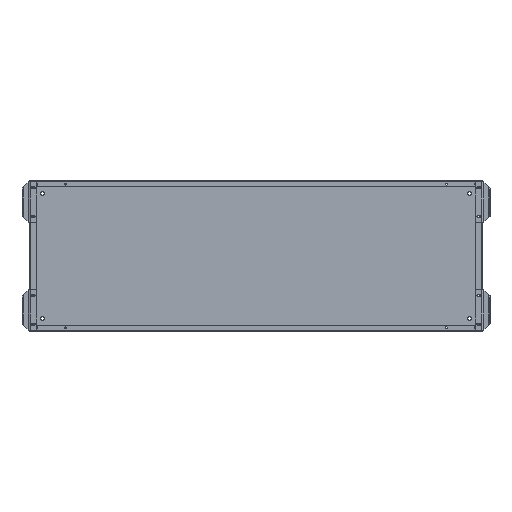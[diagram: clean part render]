
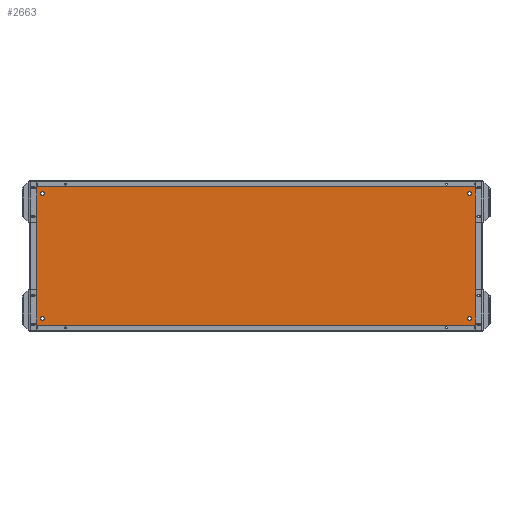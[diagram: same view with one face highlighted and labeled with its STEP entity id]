
A CAD part, top view. The second image highlights one B-rep face of the part: STEP entity #2663.
In plain terms, the highlighted planar face has unit normal (0, 0, 1).
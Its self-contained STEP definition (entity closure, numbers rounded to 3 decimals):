
#2663=ADVANCED_FACE('',(#5505,#5507,#5509,#5511,#5513,#5515,#5517,#5519,#5521,#5523,
#5525,#5527,#5529,#5531,#5533,#5535,#5537,#5539,#5541,#5543,#5545),#5547,.T.);
#5505=FACE_BOUND('',#5506,.T.);
#5506=EDGE_LOOP('',(#7126,#7127,#7128,#7129));
#5507=FACE_BOUND('',#5508,.T.);
#5508=EDGE_LOOP('',(#7130));
#5509=FACE_BOUND('',#5510,.T.);
#5510=EDGE_LOOP('',(#7131));
#5511=FACE_BOUND('',#5512,.T.);
#5512=EDGE_LOOP('',(#7132));
#5513=FACE_BOUND('',#5514,.T.);
#5514=EDGE_LOOP('',(#7133));
#5515=FACE_BOUND('',#5516,.T.);
#5516=EDGE_LOOP('',(#7134));
#5517=FACE_BOUND('',#5518,.T.);
#5518=EDGE_LOOP('',(#7135));
#5519=FACE_BOUND('',#5520,.T.);
#5520=EDGE_LOOP('',(#7136));
#5521=FACE_BOUND('',#5522,.T.);
#5522=EDGE_LOOP('',(#7137));
#5523=FACE_BOUND('',#5524,.T.);
#5524=EDGE_LOOP('',(#7138));
#5525=FACE_BOUND('',#5526,.T.);
#5526=EDGE_LOOP('',(#7139));
#5527=FACE_BOUND('',#5528,.T.);
#5528=EDGE_LOOP('',(#7140));
#5529=FACE_BOUND('',#5530,.T.);
#5530=EDGE_LOOP('',(#7141));
#5531=FACE_BOUND('',#5532,.T.);
#5532=EDGE_LOOP('',(#7142));
#5533=FACE_BOUND('',#5534,.T.);
#5534=EDGE_LOOP('',(#7143));
#5535=FACE_BOUND('',#5536,.T.);
#5536=EDGE_LOOP('',(#7144));
#5537=FACE_BOUND('',#5538,.T.);
#5538=EDGE_LOOP('',(#7145));
#5539=FACE_BOUND('',#5540,.T.);
#5540=EDGE_LOOP('',(#7146));
#5541=FACE_BOUND('',#5542,.T.);
#5542=EDGE_LOOP('',(#7147));
#5543=FACE_BOUND('',#5544,.T.);
#5544=EDGE_LOOP('',(#7148));
#5545=FACE_BOUND('',#5546,.T.);
#5546=EDGE_LOOP('',(#7149));
#5547=PLANE('',#5548);
#5548=AXIS2_PLACEMENT_3D('',#5549,#5550,#5551);
#5549=CARTESIAN_POINT('',(0.,0.,2.));
#5550=DIRECTION('',(0.,-0.,1.));
#5551=DIRECTION('',(1.,0.,-0.));
#7126=ORIENTED_EDGE('',*,*,#7994,.T.);
#7127=ORIENTED_EDGE('',*,*,#7983,.F.);
#7128=ORIENTED_EDGE('',*,*,#7995,.F.);
#7129=ORIENTED_EDGE('',*,*,#7987,.T.);
#7130=ORIENTED_EDGE('',*,*,#7890,.T.);
#7131=ORIENTED_EDGE('',*,*,#7898,.T.);
#7132=ORIENTED_EDGE('',*,*,#7902,.F.);
#7133=ORIENTED_EDGE('',*,*,#7914,.T.);
#7134=ORIENTED_EDGE('',*,*,#7954,.T.);
#7135=ORIENTED_EDGE('',*,*,#7956,.F.);
#7136=ORIENTED_EDGE('',*,*,#7964,.T.);
#7137=ORIENTED_EDGE('',*,*,#7968,.F.);
#7138=ORIENTED_EDGE('',*,*,#7972,.F.);
#7139=ORIENTED_EDGE('',*,*,#7960,.T.);
#7140=ORIENTED_EDGE('',*,*,#7950,.F.);
#7141=ORIENTED_EDGE('',*,*,#7946,.F.);
#7142=ORIENTED_EDGE('',*,*,#7942,.F.);
#7143=ORIENTED_EDGE('',*,*,#7938,.F.);
#7144=ORIENTED_EDGE('',*,*,#7918,.T.);
#7145=ORIENTED_EDGE('',*,*,#7910,.F.);
#7146=ORIENTED_EDGE('',*,*,#7906,.F.);
#7147=ORIENTED_EDGE('',*,*,#7904,.T.);
#7148=ORIENTED_EDGE('',*,*,#7894,.T.);
#7149=ORIENTED_EDGE('',*,*,#7886,.T.);
#7886=EDGE_CURVE('',#8974,#8974,#8975,.T.);
#7890=EDGE_CURVE('',#8982,#8982,#8983,.T.);
#7894=EDGE_CURVE('',#8990,#8990,#8991,.T.);
#7898=EDGE_CURVE('',#8998,#8998,#8999,.T.);
#7902=EDGE_CURVE('',#9006,#9006,#9007,.T.);
#7904=EDGE_CURVE('',#9010,#9010,#9011,.T.);
#7906=EDGE_CURVE('',#9014,#9014,#9015,.T.);
#7910=EDGE_CURVE('',#9022,#9022,#9023,.T.);
#7914=EDGE_CURVE('',#9030,#9030,#9031,.T.);
#7918=EDGE_CURVE('',#9038,#9038,#9039,.T.);
#7938=EDGE_CURVE('',#9078,#9078,#9079,.T.);
#7942=EDGE_CURVE('',#9086,#9086,#9087,.T.);
#7946=EDGE_CURVE('',#9094,#9094,#9095,.T.);
#7950=EDGE_CURVE('',#9102,#9102,#9103,.T.);
#7954=EDGE_CURVE('',#9110,#9110,#9111,.T.);
#7956=EDGE_CURVE('',#9114,#9114,#9115,.T.);
#7960=EDGE_CURVE('',#9122,#9122,#9123,.T.);
#7964=EDGE_CURVE('',#9130,#9130,#9131,.T.);
#7968=EDGE_CURVE('',#9138,#9138,#9139,.T.);
#7972=EDGE_CURVE('',#9146,#9146,#9147,.T.);
#7983=EDGE_CURVE('',#9167,#9169,#9170,.T.);
#7987=EDGE_CURVE('',#9177,#9175,#9178,.T.);
#7994=EDGE_CURVE('',#9175,#9169,#9190,.T.);
#7995=EDGE_CURVE('',#9177,#9167,#9191,.T.);
#8974=VERTEX_POINT('',#12534);
#8975=CIRCLE('',#12535,1.8);
#8982=VERTEX_POINT('',#12554);
#8983=CIRCLE('',#12555,1.8);
#8990=VERTEX_POINT('',#12574);
#8991=CIRCLE('',#12575,1.8);
#8998=VERTEX_POINT('',#12594);
#8999=CIRCLE('',#12595,1.8);
#9006=VERTEX_POINT('',#12614);
#9007=CIRCLE('',#12615,4.5);
#9010=VERTEX_POINT('',#12624);
#9011=CIRCLE('',#12625,4.5);
#9014=VERTEX_POINT('',#12634);
#9015=CIRCLE('',#12635,1.8);
#9022=VERTEX_POINT('',#12654);
#9023=CIRCLE('',#12655,1.8);
#9030=VERTEX_POINT('',#12674);
#9031=CIRCLE('',#12675,1.8);
#9038=VERTEX_POINT('',#12694);
#9039=CIRCLE('',#12695,1.8);
#9078=VERTEX_POINT('',#12794);
#9079=CIRCLE('',#12795,1.8);
#9086=VERTEX_POINT('',#12814);
#9087=CIRCLE('',#12815,1.8);
#9094=VERTEX_POINT('',#12834);
#9095=CIRCLE('',#12835,1.8);
#9102=VERTEX_POINT('',#12854);
#9103=CIRCLE('',#12855,1.8);
#9110=VERTEX_POINT('',#12874);
#9111=CIRCLE('',#12875,4.5);
#9114=VERTEX_POINT('',#12884);
#9115=CIRCLE('',#12885,4.5);
#9122=VERTEX_POINT('',#12904);
#9123=CIRCLE('',#12905,1.8);
#9130=VERTEX_POINT('',#12924);
#9131=CIRCLE('',#12925,1.8);
#9138=VERTEX_POINT('',#12944);
#9139=CIRCLE('',#12945,1.8);
#9146=VERTEX_POINT('',#12964);
#9147=CIRCLE('',#12965,1.8);
#9167=VERTEX_POINT('',#13007);
#9169=VERTEX_POINT('',#13011);
#9170=LINE('',#13012,#13013);
#9175=VERTEX_POINT('',#13023);
#9177=VERTEX_POINT('',#13027);
#9178=LINE('',#13028,#13029);
#9190=LINE('',#13054,#13055);
#9191=LINE('',#13057,#13058);
#12534=CARTESIAN_POINT('',(-439.7,-166.,2.));
#12535=AXIS2_PLACEMENT_3D('',#12536,#12537,#12538);
#12536=CARTESIAN_POINT('',(-441.5,-166.,2.));
#12537=DIRECTION('',(-0.,0.,-1.));
#12538=DIRECTION('',(1.,0.,0.));
#12554=CARTESIAN_POINT('',(-506.7,-166.,2.));
#12555=AXIS2_PLACEMENT_3D('',#12556,#12557,#12558);
#12556=CARTESIAN_POINT('',(-508.5,-166.,2.));
#12557=DIRECTION('',(-0.,0.,-1.));
#12558=DIRECTION('',(1.,0.,0.));
#12574=CARTESIAN_POINT('',(443.3,-166.,2.));
#12575=AXIS2_PLACEMENT_3D('',#12576,#12577,#12578);
#12576=CARTESIAN_POINT('',(441.5,-166.,2.));
#12577=DIRECTION('',(-0.,0.,-1.));
#12578=DIRECTION('',(1.,0.,0.));
#12594=CARTESIAN_POINT('',(510.3,-166.,2.));
#12595=AXIS2_PLACEMENT_3D('',#12596,#12597,#12598);
#12596=CARTESIAN_POINT('',(508.5,-166.,2.));
#12597=DIRECTION('',(-0.,0.,-1.));
#12598=DIRECTION('',(1.,0.,0.));
#12614=CARTESIAN_POINT('',(-490.5,-145.,2.));
#12615=AXIS2_PLACEMENT_3D('',#12616,#12617,#12618);
#12616=CARTESIAN_POINT('',(-495.,-145.,2.));
#12617=DIRECTION('',(0.,-0.,1.));
#12618=DIRECTION('',(-1.,0.,0.));
#12624=CARTESIAN_POINT('',(499.5,-145.,2.));
#12625=AXIS2_PLACEMENT_3D('',#12626,#12627,#12628);
#12626=CARTESIAN_POINT('',(495.,-145.,2.));
#12627=DIRECTION('',(-0.,0.,-1.));
#12628=DIRECTION('',(1.,0.,0.));
#12634=CARTESIAN_POINT('',(-514.2,-158.5,2.));
#12635=AXIS2_PLACEMENT_3D('',#12636,#12637,#12638);
#12636=CARTESIAN_POINT('',(-516.,-158.5,2.));
#12637=DIRECTION('',(0.,-0.,1.));
#12638=DIRECTION('',(-1.,0.,0.));
#12654=CARTESIAN_POINT('',(-514.2,-91.5,2.));
#12655=AXIS2_PLACEMENT_3D('',#12656,#12657,#12658);
#12656=CARTESIAN_POINT('',(-516.,-91.5,2.));
#12657=DIRECTION('',(0.,-0.,1.));
#12658=DIRECTION('',(-1.,0.,0.));
#12674=CARTESIAN_POINT('',(517.8,-158.5,2.));
#12675=AXIS2_PLACEMENT_3D('',#12676,#12677,#12678);
#12676=CARTESIAN_POINT('',(516.,-158.5,2.));
#12677=DIRECTION('',(-0.,0.,-1.));
#12678=DIRECTION('',(1.,0.,0.));
#12694=CARTESIAN_POINT('',(517.8,-91.5,2.));
#12695=AXIS2_PLACEMENT_3D('',#12696,#12697,#12698);
#12696=CARTESIAN_POINT('',(516.,-91.5,2.));
#12697=DIRECTION('',(-0.,0.,-1.));
#12698=DIRECTION('',(1.,0.,0.));
#12794=CARTESIAN_POINT('',(-439.7,166.,2.));
#12795=AXIS2_PLACEMENT_3D('',#12796,#12797,#12798);
#12796=CARTESIAN_POINT('',(-441.5,166.,2.));
#12797=DIRECTION('',(0.,-0.,1.));
#12798=DIRECTION('',(-1.,0.,0.));
#12814=CARTESIAN_POINT('',(-506.7,166.,2.));
#12815=AXIS2_PLACEMENT_3D('',#12816,#12817,#12818);
#12816=CARTESIAN_POINT('',(-508.5,166.,2.));
#12817=DIRECTION('',(0.,-0.,1.));
#12818=DIRECTION('',(-1.,0.,0.));
#12834=CARTESIAN_POINT('',(443.3,166.,2.));
#12835=AXIS2_PLACEMENT_3D('',#12836,#12837,#12838);
#12836=CARTESIAN_POINT('',(441.5,166.,2.));
#12837=DIRECTION('',(0.,-0.,1.));
#12838=DIRECTION('',(-1.,0.,0.));
#12854=CARTESIAN_POINT('',(510.3,166.,2.));
#12855=AXIS2_PLACEMENT_3D('',#12856,#12857,#12858);
#12856=CARTESIAN_POINT('',(508.5,166.,2.));
#12857=DIRECTION('',(0.,-0.,1.));
#12858=DIRECTION('',(-1.,0.,0.));
#12874=CARTESIAN_POINT('',(-490.5,145.,2.));
#12875=AXIS2_PLACEMENT_3D('',#12876,#12877,#12878);
#12876=CARTESIAN_POINT('',(-495.,145.,2.));
#12877=DIRECTION('',(-0.,0.,-1.));
#12878=DIRECTION('',(1.,0.,0.));
#12884=CARTESIAN_POINT('',(499.5,145.,2.));
#12885=AXIS2_PLACEMENT_3D('',#12886,#12887,#12888);
#12886=CARTESIAN_POINT('',(495.,145.,2.));
#12887=DIRECTION('',(0.,-0.,1.));
#12888=DIRECTION('',(-1.,0.,0.));
#12904=CARTESIAN_POINT('',(-514.2,158.5,2.));
#12905=AXIS2_PLACEMENT_3D('',#12906,#12907,#12908);
#12906=CARTESIAN_POINT('',(-516.,158.5,2.));
#12907=DIRECTION('',(-0.,0.,-1.));
#12908=DIRECTION('',(1.,0.,0.));
#12924=CARTESIAN_POINT('',(-514.2,91.5,2.));
#12925=AXIS2_PLACEMENT_3D('',#12926,#12927,#12928);
#12926=CARTESIAN_POINT('',(-516.,91.5,2.));
#12927=DIRECTION('',(-0.,0.,-1.));
#12928=DIRECTION('',(1.,0.,0.));
#12944=CARTESIAN_POINT('',(517.8,158.5,2.));
#12945=AXIS2_PLACEMENT_3D('',#12946,#12947,#12948);
#12946=CARTESIAN_POINT('',(516.,158.5,2.));
#12947=DIRECTION('',(0.,-0.,1.));
#12948=DIRECTION('',(-1.,0.,0.));
#12964=CARTESIAN_POINT('',(517.8,91.5,2.));
#12965=AXIS2_PLACEMENT_3D('',#12966,#12967,#12968);
#12966=CARTESIAN_POINT('',(516.,91.5,2.));
#12967=DIRECTION('',(0.,-0.,1.));
#12968=DIRECTION('',(-1.,0.,0.));
#13007=CARTESIAN_POINT('',(-523.,-173.,2.));
#13011=CARTESIAN_POINT('',(-523.,173.,2.));
#13012=CARTESIAN_POINT('',(-523.,-173.,2.));
#13013=VECTOR('',#13014,1.);
#13014=DIRECTION('',(0.,1.,0.));
#13023=CARTESIAN_POINT('',(523.,173.,2.));
#13027=CARTESIAN_POINT('',(523.,-173.,2.));
#13028=CARTESIAN_POINT('',(523.,-173.,2.));
#13029=VECTOR('',#13030,1.);
#13030=DIRECTION('',(0.,1.,0.));
#13054=CARTESIAN_POINT('',(523.,173.,2.));
#13055=VECTOR('',#13056,1.);
#13056=DIRECTION('',(-1.,0.,0.));
#13057=CARTESIAN_POINT('',(523.,-173.,2.));
#13058=VECTOR('',#13059,1.);
#13059=DIRECTION('',(-1.,0.,0.));
